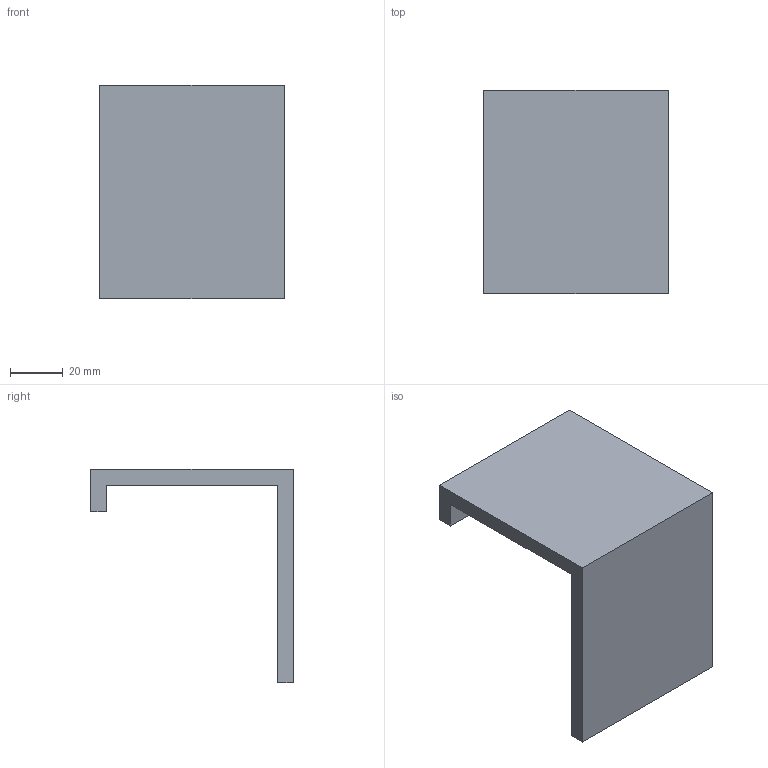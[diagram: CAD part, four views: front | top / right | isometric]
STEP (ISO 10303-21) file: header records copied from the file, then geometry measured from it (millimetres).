
FILE_DESCRIPTION(/* description */ (''),/* implementation_level */ '2;1');
FILE_NAME(/* name */ '',/* time_stamp */ '2026-04-10T14:25:29+02:00',/* author */ (''),/* organization */ (''),/* preprocessor_version */ 'ST-DEVELOPER v20.1',/* originating_system */ 'Autodesk Translation Framework v14.24.0.0',/* authorisation */ '');
FILE_SCHEMA (('AUTOMOTIVE_DESIGN { 1 0 10303 214 3 1 1 }'));
Length unit declared in the file: millimetre
Products named in the file (1): (Niezapisany)
Bounding box: 70 x 77 x 81 mm (x, y, z)
Volume: 68002.3 mm3; surface area: 25526.8 mm2
Topology: 1 solids, 1 shells, 12 faces, 30 edges, 20 vertices
Faces by surface type: plane 10, cylinder 2
Full cylindrical faces by diameter (mm): 2 x2
Entity records: 399 total; most frequent: CARTESIAN_POINT 63, ORIENTED_EDGE 60, DIRECTION 60, EDGE_CURVE 30, LINE 26, VECTOR 26, VERTEX_POINT 20, AXIS2_PLACEMENT_3D 17
